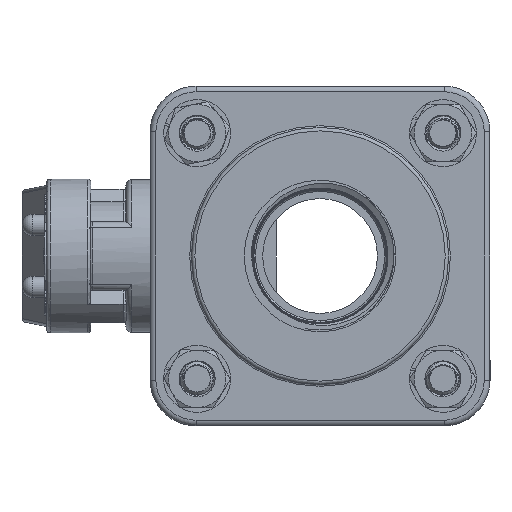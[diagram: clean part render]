
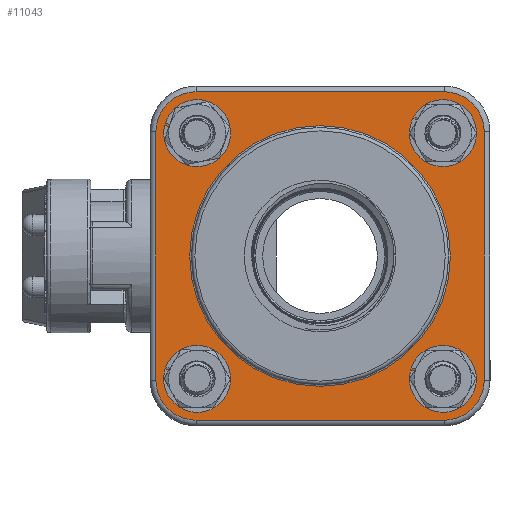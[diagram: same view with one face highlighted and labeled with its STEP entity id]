
A CAD part, left-side view. The second image highlights one B-rep face of the part: STEP entity #11043.
In plain terms, the highlighted planar face has unit normal (-1, 0, 0) as drawn and (1, 0, 0) by its records, which use the part's own axes.
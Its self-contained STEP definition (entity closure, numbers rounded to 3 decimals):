
#2492=VECTOR('',#12583,1.);
#2493=VECTOR('',#12586,1.);
#2494=VECTOR('',#12589,1.);
#2495=VECTOR('',#12592,1.);
#3137=LINE('',#15017,#2492);
#3138=LINE('',#15022,#2493);
#3139=LINE('',#15026,#2494);
#3140=LINE('',#15030,#2495);
#3946=VERTEX_POINT('',#15012);
#3948=VERTEX_POINT('',#15018);
#3949=VERTEX_POINT('',#15019);
#3950=VERTEX_POINT('',#15021);
#3951=VERTEX_POINT('',#15023);
#3952=VERTEX_POINT('',#15025);
#3953=VERTEX_POINT('',#15027);
#3954=VERTEX_POINT('',#15029);
#3955=VERTEX_POINT('',#15031);
#3956=VERTEX_POINT('',#15034);
#3957=VERTEX_POINT('',#15036);
#3958=VERTEX_POINT('',#15038);
#3959=VERTEX_POINT('',#15040);
#4906=CIRCLE('',#11678,2.883);
#4908=CIRCLE('',#11682,0.889);
#4909=CIRCLE('',#11683,0.889);
#4910=CIRCLE('',#11684,0.889);
#4911=CIRCLE('',#11685,0.889);
#4912=CIRCLE('',#11686,0.406);
#4913=CIRCLE('',#11687,0.406);
#4914=CIRCLE('',#11688,0.406);
#4915=CIRCLE('',#11689,0.406);
#5266=EDGE_CURVE('',#3946,#3946,#4906,.T.);
#5268=EDGE_CURVE('',#3948,#3949,#3137,.T.);
#5269=EDGE_CURVE('',#3950,#3948,#4908,.T.);
#5270=EDGE_CURVE('',#3951,#3950,#3138,.T.);
#5271=EDGE_CURVE('',#3952,#3951,#4909,.T.);
#5272=EDGE_CURVE('',#3953,#3952,#3139,.T.);
#5273=EDGE_CURVE('',#3954,#3953,#4910,.T.);
#5274=EDGE_CURVE('',#3955,#3954,#3140,.T.);
#5275=EDGE_CURVE('',#3949,#3955,#4911,.T.);
#5276=EDGE_CURVE('',#3956,#3956,#4912,.T.);
#5277=EDGE_CURVE('',#3957,#3957,#4913,.T.);
#5278=EDGE_CURVE('',#3958,#3958,#4914,.T.);
#5279=EDGE_CURVE('',#3959,#3959,#4915,.T.);
#6823=ORIENTED_EDGE('',*,*,#5268,.F.);
#6824=ORIENTED_EDGE('',*,*,#5269,.F.);
#6825=ORIENTED_EDGE('',*,*,#5270,.F.);
#6826=ORIENTED_EDGE('',*,*,#5271,.F.);
#6827=ORIENTED_EDGE('',*,*,#5272,.F.);
#6828=ORIENTED_EDGE('',*,*,#5273,.F.);
#6829=ORIENTED_EDGE('',*,*,#5274,.F.);
#6830=ORIENTED_EDGE('',*,*,#5275,.F.);
#6831=ORIENTED_EDGE('',*,*,#5276,.T.);
#6832=ORIENTED_EDGE('',*,*,#5277,.T.);
#6833=ORIENTED_EDGE('',*,*,#5278,.T.);
#6834=ORIENTED_EDGE('',*,*,#5279,.T.);
#6835=ORIENTED_EDGE('',*,*,#5266,.F.);
#9677=EDGE_LOOP('',(#6823,#6824,#6825,#6826,#6827,#6828,#6829,#6830));
#9678=EDGE_LOOP('',(#6831));
#9679=EDGE_LOOP('',(#6832));
#9680=EDGE_LOOP('',(#6833));
#9681=EDGE_LOOP('',(#6834));
#9682=EDGE_LOOP('',(#6835));
#10368=FACE_BOUND('',#9677,.T.);
#10369=FACE_BOUND('',#9678,.T.);
#10370=FACE_BOUND('',#9679,.T.);
#10371=FACE_BOUND('',#9680,.T.);
#10372=FACE_BOUND('',#9681,.T.);
#10373=FACE_BOUND('',#9682,.T.);
#11043=ADVANCED_FACE('',(#10368,#10369,#10370,#10371,#10372,#10373),#45899,
 .T.);
#11678=AXIS2_PLACEMENT_3D('',#15011,#12576,#12577);
#11681=AXIS2_PLACEMENT_3D('',#15016,#12582,$);
#11682=AXIS2_PLACEMENT_3D('',#15020,#12584,#12585);
#11683=AXIS2_PLACEMENT_3D('',#15024,#12587,#12588);
#11684=AXIS2_PLACEMENT_3D('',#15028,#12590,#12591);
#11685=AXIS2_PLACEMENT_3D('',#15032,#12593,#12594);
#11686=AXIS2_PLACEMENT_3D('',#15033,#12595,#12596);
#11687=AXIS2_PLACEMENT_3D('',#15035,#12597,#12598);
#11688=AXIS2_PLACEMENT_3D('',#15037,#12599,#12600);
#11689=AXIS2_PLACEMENT_3D('',#15039,#12601,#12602);
#12576=DIRECTION('',(1.,0.,0.));
#12577=DIRECTION('',(0.,0.,2.883));
#12582=DIRECTION('',(1.,0.,0.));
#12583=DIRECTION('',(0.,0.,-1.));
#12584=DIRECTION('',(-1.,0.,0.));
#12585=DIRECTION('',(0.,0.629,0.629));
#12586=DIRECTION('',(0.,1.,0.));
#12587=DIRECTION('',(-1.,0.,0.));
#12588=DIRECTION('',(0.,-0.629,0.629));
#12589=DIRECTION('',(0.,0.,1.));
#12590=DIRECTION('',(-1.,0.,0.));
#12591=DIRECTION('',(0.,-0.629,-0.629));
#12592=DIRECTION('',(0.,-1.,0.));
#12593=DIRECTION('',(-1.,0.,0.));
#12594=DIRECTION('',(0.,0.629,-0.629));
#12595=DIRECTION('',(-1.,0.,0.));
#12596=DIRECTION('',(0.,0.406,0.));
#12597=DIRECTION('',(-1.,0.,0.));
#12598=DIRECTION('',(0.,0.,-0.406));
#12599=DIRECTION('',(-1.,0.,0.));
#12600=DIRECTION('',(0.,-0.406,0.));
#12601=DIRECTION('',(-1.,0.,0.));
#12602=DIRECTION('',(0.,0.,0.406));
#15011=CARTESIAN_POINT('',(1.372,0.,0.));
#15012=CARTESIAN_POINT('',(1.372,0.,-2.883));
#15016=CARTESIAN_POINT('',(1.372,0.,0.));
#15017=CARTESIAN_POINT('',(1.372,3.632,0.));
#15018=CARTESIAN_POINT('',(1.372,3.632,2.743));
#15019=CARTESIAN_POINT('',(1.372,3.632,-2.743));
#15020=CARTESIAN_POINT('',(1.372,2.743,2.743));
#15021=CARTESIAN_POINT('',(1.372,2.743,3.632));
#15022=CARTESIAN_POINT('',(1.372,0.,3.632));
#15023=CARTESIAN_POINT('',(1.372,-2.743,3.632));
#15024=CARTESIAN_POINT('',(1.372,-2.743,2.743));
#15025=CARTESIAN_POINT('',(1.372,-3.632,2.743));
#15026=CARTESIAN_POINT('',(1.372,-3.632,0.));
#15027=CARTESIAN_POINT('',(1.372,-3.632,-2.743));
#15028=CARTESIAN_POINT('',(1.372,-2.743,-2.743));
#15029=CARTESIAN_POINT('',(1.372,-2.743,-3.632));
#15030=CARTESIAN_POINT('',(1.372,0.,-3.632));
#15031=CARTESIAN_POINT('',(1.372,2.743,-3.632));
#15032=CARTESIAN_POINT('',(1.372,2.743,-2.743));
#15033=CARTESIAN_POINT('',(1.372,2.718,-2.718));
#15034=CARTESIAN_POINT('',(1.372,2.311,-2.718));
#15035=CARTESIAN_POINT('',(1.372,-2.718,-2.718));
#15036=CARTESIAN_POINT('',(1.372,-2.718,-2.311));
#15037=CARTESIAN_POINT('',(1.372,-2.718,2.718));
#15038=CARTESIAN_POINT('',(1.372,-2.311,2.718));
#15039=CARTESIAN_POINT('',(1.372,2.718,2.718));
#15040=CARTESIAN_POINT('',(1.372,2.718,2.311));
#45899=PLANE('',#11681);
